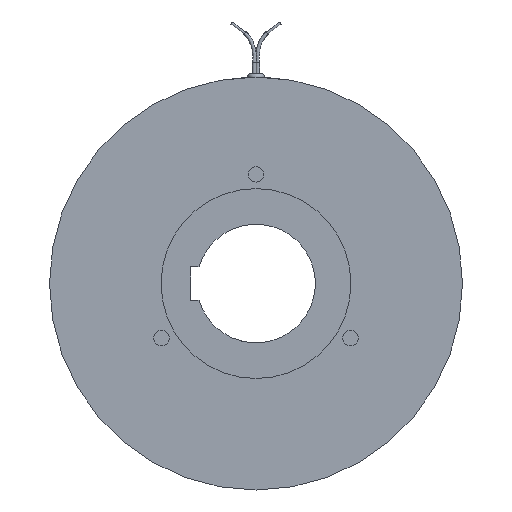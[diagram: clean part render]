
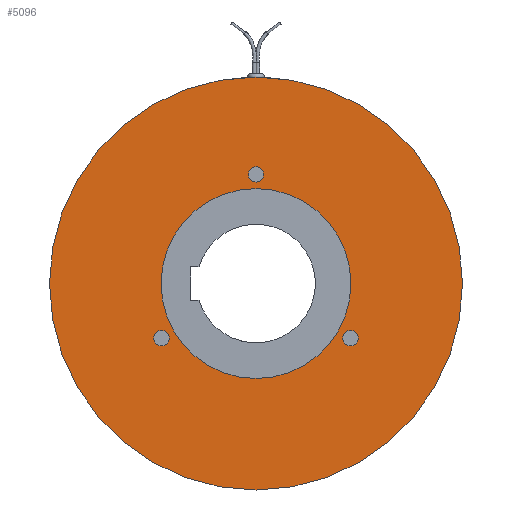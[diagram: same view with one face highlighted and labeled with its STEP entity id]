
A CAD part, left-side view. The second image highlights one B-rep face of the part: STEP entity #5096.
In plain terms, the highlighted planar face has unit normal (-1, 0, 0).
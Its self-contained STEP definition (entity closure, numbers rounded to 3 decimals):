
#68=FACE_BOUND('',#618,.T.);
#69=FACE_BOUND('',#619,.T.);
#70=FACE_BOUND('',#620,.T.);
#71=FACE_BOUND('',#621,.T.);
#168=PLANE('',#5627);
#353=FACE_OUTER_BOUND('',#617,.T.);
#617=EDGE_LOOP('',(#3642,#3643,#3644));
#618=EDGE_LOOP('',(#3645));
#619=EDGE_LOOP('',(#3646));
#620=EDGE_LOOP('',(#3647));
#621=EDGE_LOOP('',(#3648,#3649));
#867=CIRCLE('',#5306,87.);
#868=CIRCLE('',#5307,87.);
#1100=CIRCLE('',#5628,87.);
#1101=CIRCLE('',#5629,3.25);
#1102=CIRCLE('',#5630,3.25);
#1103=CIRCLE('',#5631,3.25);
#1104=CIRCLE('',#5632,40.);
#1105=CIRCLE('',#5633,40.);
#1813=VERTEX_POINT('',#8006);
#1814=VERTEX_POINT('',#8008);
#1815=VERTEX_POINT('',#8010);
#2023=VERTEX_POINT('',#8654);
#2024=VERTEX_POINT('',#8656);
#2025=VERTEX_POINT('',#8658);
#2026=VERTEX_POINT('',#8660);
#2027=VERTEX_POINT('',#8661);
#2348=EDGE_CURVE('',#1814,#1813,#867,.T.);
#2349=EDGE_CURVE('',#1815,#1814,#868,.T.);
#2661=EDGE_CURVE('',#1813,#1815,#1100,.T.);
#2662=EDGE_CURVE('',#2023,#2023,#1101,.T.);
#2663=EDGE_CURVE('',#2024,#2024,#1102,.T.);
#2664=EDGE_CURVE('',#2025,#2025,#1103,.T.);
#2665=EDGE_CURVE('',#2026,#2027,#1104,.T.);
#2666=EDGE_CURVE('',#2027,#2026,#1105,.T.);
#3642=ORIENTED_EDGE('',*,*,#2348,.T.);
#3643=ORIENTED_EDGE('',*,*,#2661,.T.);
#3644=ORIENTED_EDGE('',*,*,#2349,.T.);
#3645=ORIENTED_EDGE('',*,*,#2662,.T.);
#3646=ORIENTED_EDGE('',*,*,#2663,.T.);
#3647=ORIENTED_EDGE('',*,*,#2664,.T.);
#3648=ORIENTED_EDGE('',*,*,#2665,.F.);
#3649=ORIENTED_EDGE('',*,*,#2666,.F.);
#5096=ADVANCED_FACE('',(#353,#68,#69,#70,#71),#168,.T.);
#5306=AXIS2_PLACEMENT_3D('',#8009,#6110,#6111);
#5307=AXIS2_PLACEMENT_3D('',#8011,#6112,#6113);
#5627=AXIS2_PLACEMENT_3D('',#8652,#6830,#6831);
#5628=AXIS2_PLACEMENT_3D('',#8653,#6832,#6833);
#5629=AXIS2_PLACEMENT_3D('',#8655,#6834,#6835);
#5630=AXIS2_PLACEMENT_3D('',#8657,#6836,#6837);
#5631=AXIS2_PLACEMENT_3D('',#8659,#6838,#6839);
#5632=AXIS2_PLACEMENT_3D('',#8662,#6840,#6841);
#5633=AXIS2_PLACEMENT_3D('',#8663,#6842,#6843);
#6110=DIRECTION('center_axis',(-1.,0.,0.));
#6111=DIRECTION('ref_axis',(0.,1.,0.));
#6112=DIRECTION('center_axis',(-1.,0.,0.));
#6113=DIRECTION('ref_axis',(0.,1.,0.));
#6830=DIRECTION('center_axis',(-1.,0.,0.));
#6831=DIRECTION('ref_axis',(0.,0.,1.));
#6832=DIRECTION('center_axis',(-1.,0.,0.));
#6833=DIRECTION('ref_axis',(0.,1.,0.));
#6834=DIRECTION('center_axis',(1.,0.,0.));
#6835=DIRECTION('ref_axis',(0.,0.,
-1.));
#6836=DIRECTION('center_axis',(1.,0.,0.));
#6837=DIRECTION('ref_axis',(0.,0.,
-1.));
#6838=DIRECTION('center_axis',(1.,0.,0.));
#6839=DIRECTION('ref_axis',(0.,0.,
-1.));
#6840=DIRECTION('center_axis',(-1.,0.,0.));
#6841=DIRECTION('ref_axis',(0.,1.,0.));
#6842=DIRECTION('center_axis',(-1.,0.,0.));
#6843=DIRECTION('ref_axis',(0.,1.,0.));
#8006=CARTESIAN_POINT('',(-25.05,-87.018,0.));
#8008=CARTESIAN_POINT('',(-25.05,86.982,0.));
#8009=CARTESIAN_POINT('Origin',(-25.05,-0.018,0.));
#8010=CARTESIAN_POINT('',(-25.05,-0.018,87.));
#8011=CARTESIAN_POINT('Origin',(-25.05,-0.018,0.));
#8652=CARTESIAN_POINT('Origin',(-25.05,63.482,0.));
#8653=CARTESIAN_POINT('Origin',(-25.05,-0.018,0.));
#8654=CARTESIAN_POINT('',(-25.05,-39.855,-19.75));
#8655=CARTESIAN_POINT('Origin',(-25.05,-39.855,-23.));
#8656=CARTESIAN_POINT('',(-25.05,-0.018,49.25));
#8657=CARTESIAN_POINT('Origin',(-25.05,-0.018,46.));
#8658=CARTESIAN_POINT('',(-25.05,39.819,-19.75));
#8659=CARTESIAN_POINT('Origin',(-25.05,39.819,-23.));
#8660=CARTESIAN_POINT('',(-25.05,39.982,0.));
#8661=CARTESIAN_POINT('',(-25.05,-40.018,0.));
#8662=CARTESIAN_POINT('Origin',(-25.05,-0.018,0.));
#8663=CARTESIAN_POINT('Origin',(-25.05,-0.018,0.));
